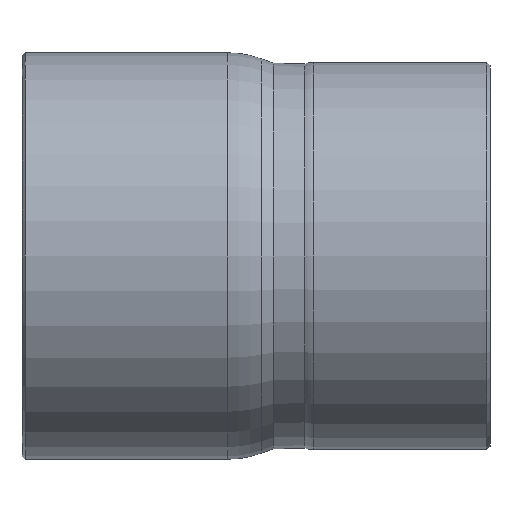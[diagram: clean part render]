
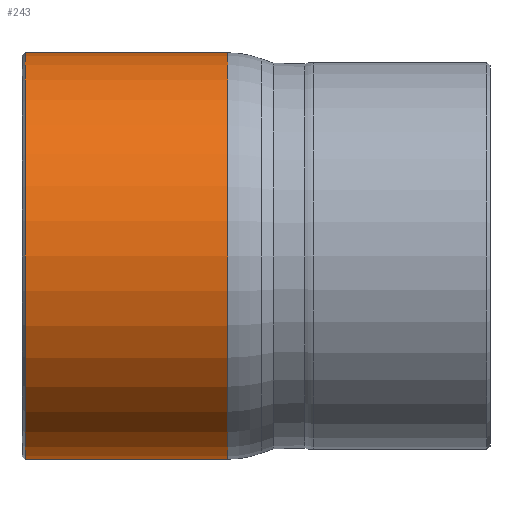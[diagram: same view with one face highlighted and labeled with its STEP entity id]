
A CAD part, front view. The second image highlights one B-rep face of the part: STEP entity #243.
In plain terms, the highlighted cylindrical face has radius 33.337 mm (diameter 66.675 mm), a full revolution.
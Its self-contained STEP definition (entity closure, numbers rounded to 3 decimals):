
#212=CARTESIAN_POINT('',(-48.275,33.338,0.));
#213=VERTEX_POINT('',#212);
#214=CARTESIAN_POINT('',(-48.275,0.0,0.0));
#215=DIRECTION('',(-1.0,0.0,0.0));
#216=DIRECTION('',(0.0,-1.0,0.0));
#217=AXIS2_PLACEMENT_3D('',#214,#215,#216);
#218=CIRCLE('',#217,33.338);
#219=EDGE_CURVE('',#213,#213,#218,.T.);
#224=CARTESIAN_POINT('',(-31.9,0.0,0.0));
#225=DIRECTION('',(1.0,0.0,0.0));
#226=DIRECTION('',(0.0,1.0,0.0));
#227=AXIS2_PLACEMENT_3D('',#224,#225,#226);
#228=CYLINDRICAL_SURFACE('',#227,33.338);
#229=CARTESIAN_POINT('',(-15.025,33.337,0.0));
#230=VERTEX_POINT('',#229);
#231=CARTESIAN_POINT('',(-15.025,0.0,0.0));
#232=DIRECTION('',(1.0,0.0,0.0));
#233=DIRECTION('',(0.0,1.0,0.0));
#234=AXIS2_PLACEMENT_3D('',#231,#232,#233);
#235=CIRCLE('',#234,33.337);
#236=EDGE_CURVE('',#230,#230,#235,.T.);
#237=ORIENTED_EDGE('',*,*,#236,.F.);
#238=EDGE_LOOP('',(#237));
#239=FACE_OUTER_BOUND('',#238,.T.);
#240=ORIENTED_EDGE('',*,*,#219,.F.);
#241=EDGE_LOOP('',(#240));
#242=FACE_BOUND('',#241,.T.);
#243=ADVANCED_FACE('',(#239,#242),#228,.T.);
